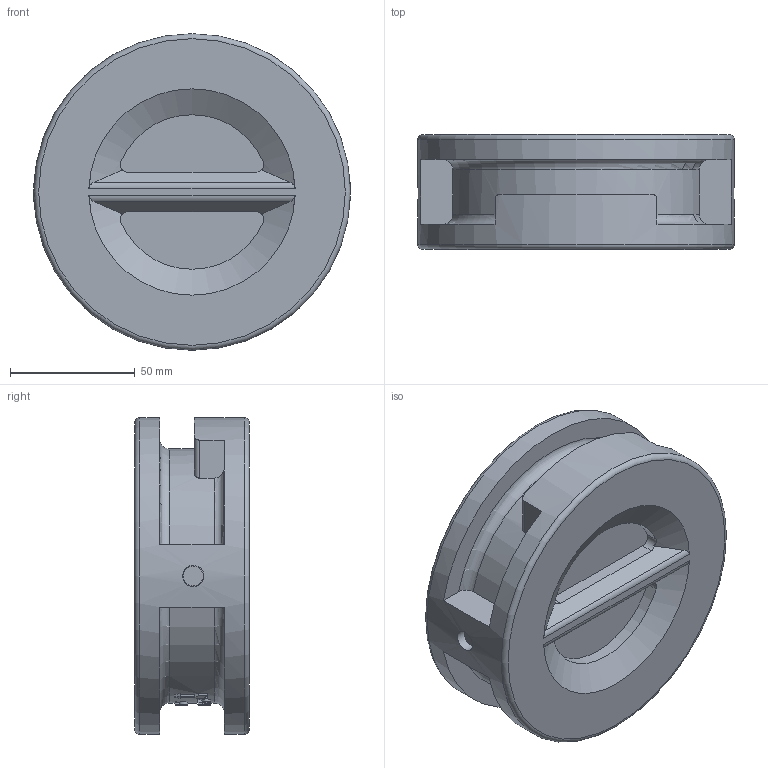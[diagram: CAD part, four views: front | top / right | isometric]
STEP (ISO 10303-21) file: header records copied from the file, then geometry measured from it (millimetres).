
FILE_DESCRIPTION(/* description */ ('STEP AP214'),/* implementation_level */ '2;1');
FILE_NAME(/* name */ 'RSV30 DN65.stp',/* time_stamp */ '2024-07-04T16:07:54+07:00',/* author */ ('Eva'),/* organization */ (''),/* preprocessor_version */ 'ST-DEVELOPER v20',/* originating_system */ 'Autodesk Inventor 2025',/* authorisation */ '');
FILE_SCHEMA (('AUTOMOTIVE_DESIGN { 1 0 10303 214 3 1 1 }'));
Length unit declared in the file: millimetre
Products named in the file (1): 65Ö¹»Ø
Bounding box: 127 x 46 x 127 mm (x, y, z)
Volume: 296791.8 mm3; surface area: 65937 mm2
Topology: 1 solids, 1 shells, 197 faces, 504 edges, 336 vertices
Faces by surface type: plane 118, cylinder 40, bspline 30, torus 7, cone 2
Full cylindrical faces by diameter (mm): 8 x5, 8.5 x2, 75 x1, 84 x1, 127 x1
Entity records: 11126 total; most frequent: CARTESIAN_POINT 6378, ORIENTED_EDGE 1008, DIRECTION 919, EDGE_CURVE 504, AXIS2_PLACEMENT_3D 339, VERTEX_POINT 336, LINE 241, VECTOR 241
